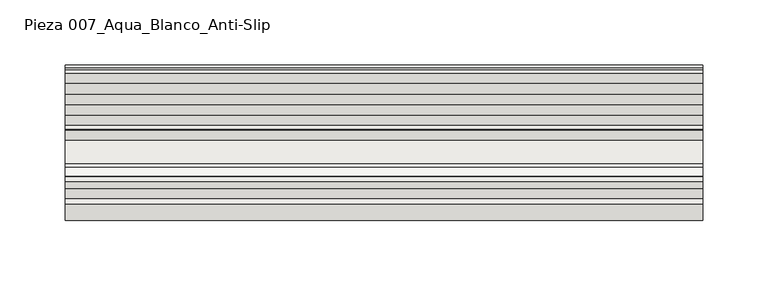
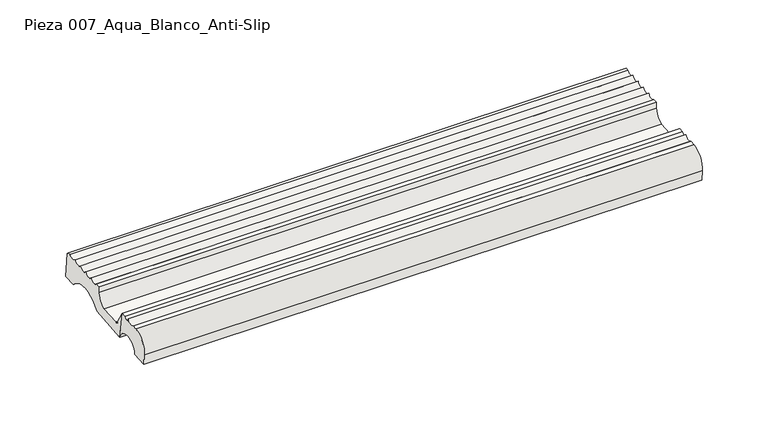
"""IFC4 building model written with IfcOpenShell, lengths in millimetres: slab geometry, ROSA GRES_007 : Pieza 007_Aqua_Blanco_Anti-Slip."""

from ifc_helpers import new_model, si_unit, point, frame, frame_2d, origin, place, context, project, spatial, polyline, circle_curve, trimmed, segment, composite_curve, outline, extrude, source, transform, mapped, element, save


def pieza_007_aqua_blanco_anti_slip_291b6934(model_context):
    return source(origin(), model_context, "Body", "SweptSolid", [
        extrude(outline(composite_curve([segment(polyline([(14.3742659, 174.3159971), (0.6896004, 173.202129), (-0.0710994, 182.547869)]), True, "CONTINUOUS"), segment(trimmed(circle_curve(frame_2d((15.1536138, 183.7870899)), 15.2750633), [point((-0.0710994, 182.547869))], [point((12.7748841, 198.875801))], False, "CARTESIAN"), True, "CONTINUOUS"), segment(polyline([(12.7748841, 198.875801), (16.9364731, 199.1796191)]), True, "CONTINUOUS"), segment(trimmed(circle_curve(frame_2d((20.3008643, 202.7650351)), 4.9167404), [point((16.9364731, 199.1796191))], [point((24.7247274, 200.6193952))], True, "CARTESIAN"), True, "CONTINUOUS"), segment(trimmed(circle_curve(frame_2d((27.3971937, 201.142641)), 2.7232081), [point((24.7247274, 200.6193952))], [point((29.9345538, 200.1538709))], True, "CARTESIAN"), True, "CONTINUOUS"), segment(polyline([(29.9345538, 200.1538709), (33.8762309, 200.4746837), (37.1820416, 176.172444)]), True, "CONTINUOUS"), segment(trimmed(circle_curve(frame_2d((25.9545763, 173.0767428)), 11.6464304), [point((37.1820416, 176.172444))], [point((14.3742659, 174.3159971))], True, "CARTESIAN"), True, "CONTINUOUS")], self_intersect=False)), frame((0.0, 0.0, 0.0), z_axis=(1.0, 0.0, 0.0), x_axis=(0.0, 1.0, 0.0)), (0.0, 0.0, 1.0), 488.9701973),
        extrude(outline(composite_curve([segment(polyline([(71.8498608, 178.9942432), (37.1820416, 176.172444), (33.8762309, 200.4746837)]), True, "CONTINUOUS"), segment(trimmed(circle_curve(frame_2d((106.9597263, 233.2212806)), 80.084561), [point((33.8762309, 200.4746837))], [point((40.9402045, 187.8896178))], True, "CARTESIAN"), True, "CONTINUOUS"), segment(trimmed(circle_curve(frame_2d((43.5817022, 189.3117604)), 3.0), [point((40.9402045, 187.8896178))], [point((43.8250834, 186.3216491))], True, "CARTESIAN"), True, "CONTINUOUS"), segment(polyline([(43.8250834, 186.3216491), (61.867532, 187.7902205)]), True, "CONTINUOUS"), segment(trimmed(circle_curve(frame_2d((57.0579989, 199.0821231)), 12.2734948), [point((61.867532, 187.7902205))], [point((69.3023399, 198.236672))], True, "CARTESIAN"), True, "CONTINUOUS"), segment(polyline([(69.3023399, 198.236672), (69.6579726, 203.3871621), (73.3820924, 203.6902881)]), True, "CONTINUOUS"), segment(trimmed(circle_curve(frame_2d((76.8218788, 206.722806)), 4.5856619), [point((73.3820924, 203.6902881))], [point((81.0271834, 204.8942251))], True, "CARTESIAN"), True, "CONTINUOUS"), segment(trimmed(circle_curve(frame_2d((84.8780848, 207.3839748)), 4.5856619), [point((81.0271834, 204.8942251))], [point((89.0833894, 205.555394))], True, "CARTESIAN"), True, "CONTINUOUS"), segment(trimmed(circle_curve(frame_2d((92.9342908, 208.0451437)), 4.5856619), [point((89.0833894, 205.555394))], [point((97.1292049, 206.1928503))], True, "CARTESIAN"), True, "CONTINUOUS"), segment(trimmed(circle_curve(frame_2d((100.9933064, 209.1504161)), 4.8660534), [point((97.1292049, 206.1928503))], [point((105.2742048, 206.836894))], True, "CARTESIAN"), True, "CONTINUOUS"), segment(trimmed(circle_curve(frame_2d((109.1074243, 209.7932705)), 4.8408403), [point((105.2742048, 206.836894))], [point((113.0660814, 207.0070959))], True, "CARTESIAN"), True, "CONTINUOUS"), segment(polyline([(113.0660814, 207.0070959), (115.3491545, 207.1930072), (115.5338707, 204.9236084), (117.4809059, 205.0820876), (119.2900344, 182.8556525), (108.342302, 181.9645582)]), True, "CONTINUOUS"), segment(trimmed(circle_curve(frame_2d((91.1625174, 167.3774726)), 22.5372595), [point((108.342302, 181.9645582))], [point((71.8498608, 178.9942432))], True, "CARTESIAN"), True, "CONTINUOUS")], self_intersect=False)), frame((0.0, 0.0, 0.0), z_axis=(1.0, 0.0, 0.0), x_axis=(0.0, 1.0, 0.0)), (0.0, 0.0, 1.0), 488.9701973),
    ])


if __name__ == "__main__":
    model = new_model("IFC4")
    model_context = context("Model", 3, world=origin())
    ifc_project = project(units=[si_unit("LENGTHUNIT", "METRE", prefix="MILLI")], contexts=[model_context])
    site = spatial("IfcSite", under=ifc_project)
    building = spatial("IfcBuilding", under=site)
    placement = place(None, origin())
    pieza_007_aqua_blanco_anti_slip_shape = pieza_007_aqua_blanco_anti_slip_291b6934(model_context)
    element("IfcSlab", 1, ObjectType="ROSA GRES_007 : Pieza 007_Aqua_Blanco_Anti-Slip", at=placement, inside=building, context=model_context, shape_type="MappedRepresentation", body=[
        mapped(pieza_007_aqua_blanco_anti_slip_shape, transform((0.0, 0.0, 0.0), x_axis=(1.0, 0.0, 0.0), y_axis=(0.0, 1.0, 0.0), z_axis=(0.0, 0.0, 1.0))),
    ])
    save(model, "model.ifc")
